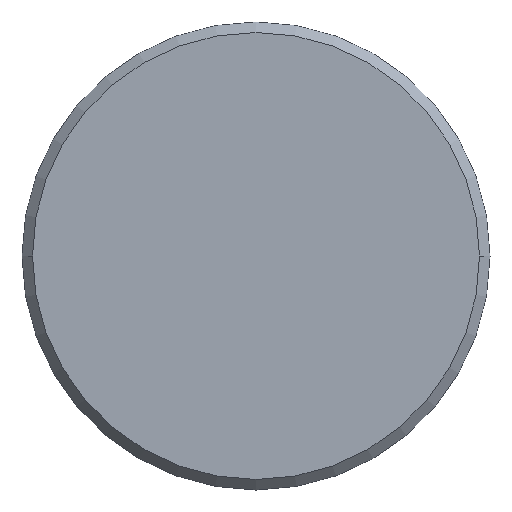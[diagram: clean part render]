
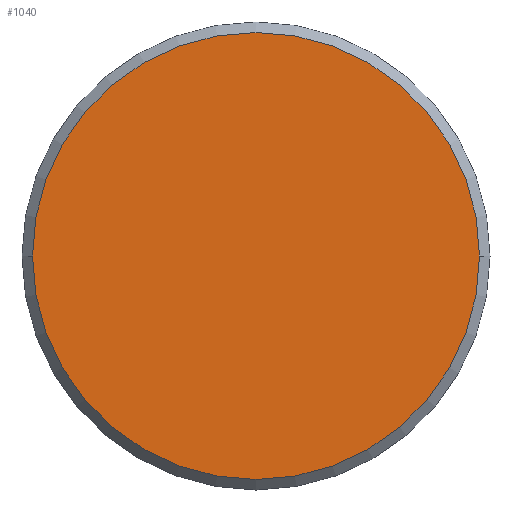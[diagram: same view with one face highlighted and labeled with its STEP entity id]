
A CAD part, front view. The second image highlights one B-rep face of the part: STEP entity #1040.
In plain terms, the highlighted planar face has unit normal (0, -1, 0).
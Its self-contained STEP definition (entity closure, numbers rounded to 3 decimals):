
#1=CARTESIAN_POINT('',(0.,0.,0.));
#2=DIRECTION('',(0.,-1.,0.));
#3=DIRECTION('',(-1.,0.,0.));
#4=AXIS2_PLACEMENT_3D('',#1,#2,#3);
#6=CARTESIAN_POINT('',(0.,0.,0.));
#7=DIRECTION('',(0.,-1.,0.));
#8=DIRECTION('',(1.,0.,0.));
#9=AXIS2_PLACEMENT_3D('',#6,#7,#8);
#1018=CARTESIAN_POINT('',(-27.7,0.,0.));
#1019=CARTESIAN_POINT('',(27.7,0.,0.));
#1020=VERTEX_POINT('',#1018);
#1021=VERTEX_POINT('',#1019);
#1029=CARTESIAN_POINT('',(0.,0.,0.));
#1030=DIRECTION('',(0.,1.,0.));
#1031=DIRECTION('',(1.,0.,0.));
#1032=AXIS2_PLACEMENT_3D('',#1029,#1030,#1031);
#1033=PLANE('',#1032);
#1035=ORIENTED_EDGE('',*,*,#1034,.F.);
#1037=ORIENTED_EDGE('',*,*,#1036,.F.);
#1038=EDGE_LOOP('',(#1035,#1037));
#1039=FACE_OUTER_BOUND('',#1038,.F.);
#1040=ADVANCED_FACE('',(#1039),#1033,.F.);
#5=CIRCLE('',#4,27.7);
#10=CIRCLE('',#9,27.7);
#1034=EDGE_CURVE('',#1020,#1021,#5,.T.);
#1036=EDGE_CURVE('',#1021,#1020,#10,.T.);
